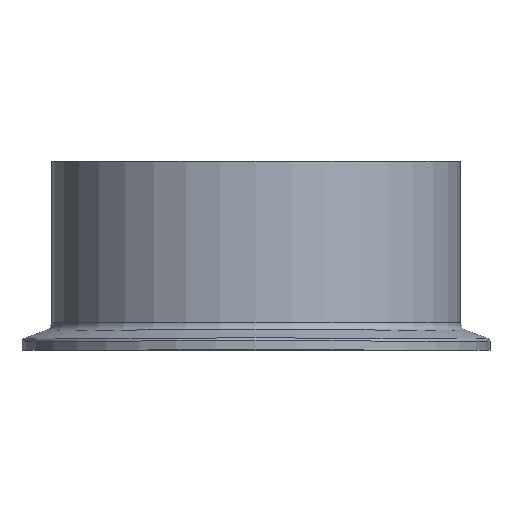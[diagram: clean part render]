
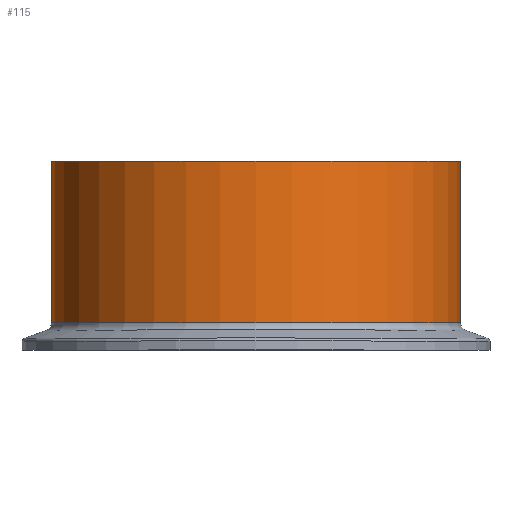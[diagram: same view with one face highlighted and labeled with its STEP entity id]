
A CAD part, top view. The second image highlights one B-rep face of the part: STEP entity #115.
In plain terms, the highlighted cylindrical face has radius 52 mm (diameter 104 mm), a full revolution.
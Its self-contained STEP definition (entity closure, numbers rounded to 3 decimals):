
#73=CARTESIAN_POINT('',(52.,48.,0.0));
#74=VERTEX_POINT('',#73);
#75=CARTESIAN_POINT('',(0.0,48.,0.0));
#76=DIRECTION('',(0.0,-1.0,0.0));
#77=DIRECTION('',(1.0,0.0,0.0));
#78=AXIS2_PLACEMENT_3D('',#75,#76,#77);
#79=CIRCLE('',#78,52.);
#80=EDGE_CURVE('',#74,#74,#79,.T.);
#96=CARTESIAN_POINT('',(0.0,27.49,0.0));
#97=DIRECTION('',(0.0,-1.0,0.0));
#98=DIRECTION('',(1.0,0.0,0.0));
#99=AXIS2_PLACEMENT_3D('',#96,#97,#98);
#100=CYLINDRICAL_SURFACE('',#99,52.0);
#101=CARTESIAN_POINT('',(52.,6.98,0.0));
#102=VERTEX_POINT('',#101);
#103=CARTESIAN_POINT('',(0.0,6.98,0.0));
#104=DIRECTION('',(0.0,-1.0,0.0));
#105=DIRECTION('',(1.0,0.0,0.0));
#106=AXIS2_PLACEMENT_3D('',#103,#104,#105);
#107=CIRCLE('',#106,52.);
#108=EDGE_CURVE('',#102,#102,#107,.T.);
#109=ORIENTED_EDGE('',*,*,#108,.F.);
#110=EDGE_LOOP('',(#109));
#111=FACE_OUTER_BOUND('',#110,.T.);
#112=ORIENTED_EDGE('',*,*,#80,.T.);
#113=EDGE_LOOP('',(#112));
#114=FACE_BOUND('',#113,.T.);
#115=ADVANCED_FACE('',(#111,#114),#100,.T.);
